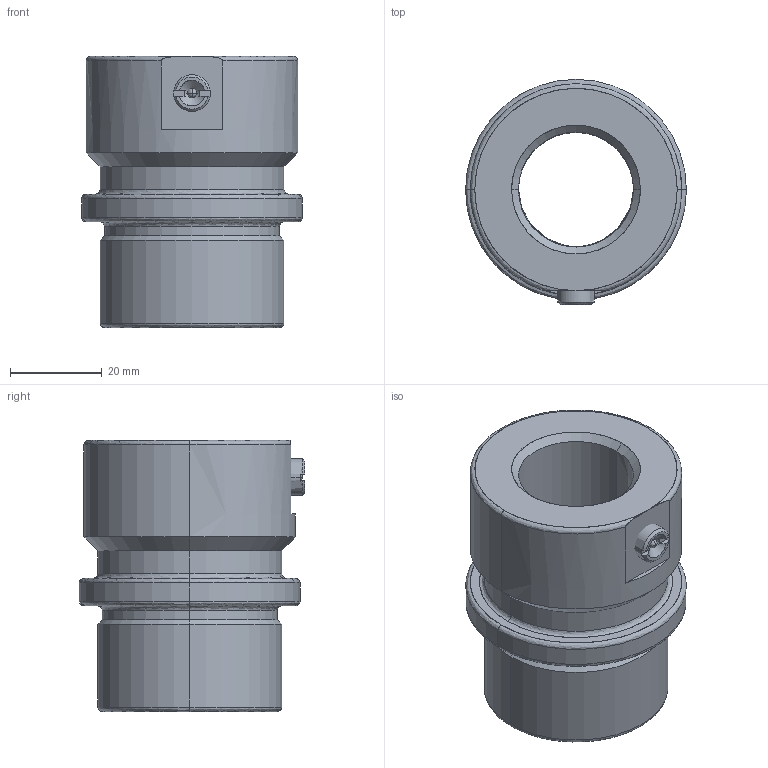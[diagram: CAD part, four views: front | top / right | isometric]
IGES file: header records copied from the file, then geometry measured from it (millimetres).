
Start section: START RECORD GO HERE.
Global section: file name: 744-25.igs; native system: DASSAULT SYSTEMES CATIA V5 R20 - www.3ds.com; preprocessor: CATIA Version 5 Release 20 ; author: Utente; organization: NB04-ASUS; date: 20201223.221850; units: millimetre
Bounding box: 48 x 49 x 59 mm (x, y, z)
Surface area: 15986.3 mm2 (no closed solid volume)
Topology: 0 solids, 0 shells, 67 faces, 306 edges, 302 vertices
Faces by surface type: revolution 51, plane 16
